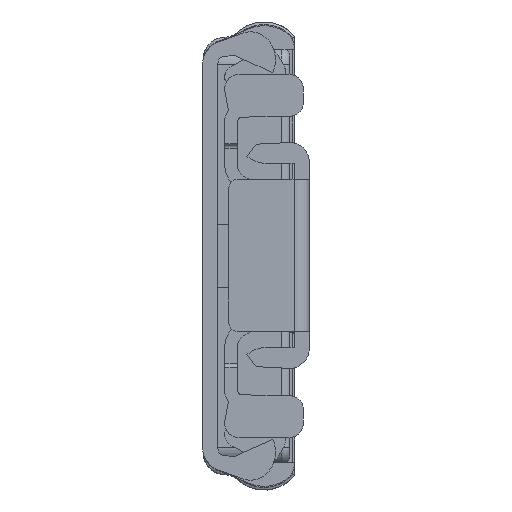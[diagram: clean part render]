
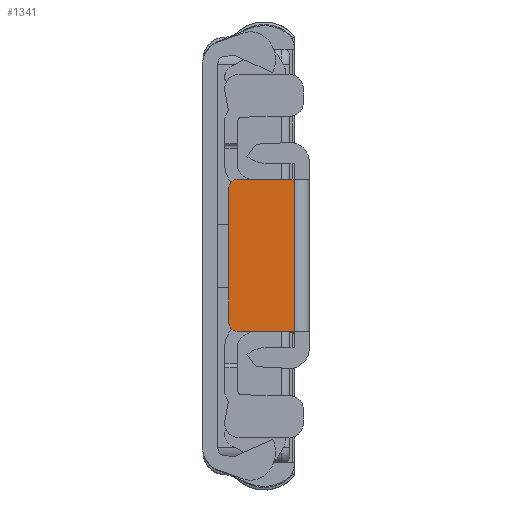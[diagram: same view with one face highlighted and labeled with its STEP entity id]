
A CAD part, front view. The second image highlights one B-rep face of the part: STEP entity #1341.
In plain terms, the highlighted planar face has unit normal (0, -1, 0).
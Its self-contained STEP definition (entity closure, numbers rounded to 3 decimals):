
#1341 = ADVANCED_FACE( '', ( #3011 ), #3012, .T. );
#3011 = FACE_OUTER_BOUND( '', #5078, .T. );
#3012 = PLANE( '', #5079 );
#5078 = EDGE_LOOP( '', ( #8976, #8977, #8978, #8979, #8980, #8981 ) );
#5079 = AXIS2_PLACEMENT_3D( '', #8982, #8983, #8984 );
#8976 = ORIENTED_EDGE( '', *, *, #13588, .T. );
#8977 = ORIENTED_EDGE( '', *, *, #12184, .T. );
#8978 = ORIENTED_EDGE( '', *, *, #13589, .T. );
#8979 = ORIENTED_EDGE( '', *, *, #13590, .T. );
#8980 = ORIENTED_EDGE( '', *, *, #12695, .T. );
#8981 = ORIENTED_EDGE( '', *, *, #12945, .T. );
#8982 = CARTESIAN_POINT( '', ( -9., -375.302, -2.366 ) );
#8983 = DIRECTION( '', ( 0., -1., 0. ) );
#8984 = DIRECTION( '', ( 0., 0., -1. ) );
#12184 = EDGE_CURVE( '', #14635, #14636, #14637, .T. );
#12695 = EDGE_CURVE( '', #15541, #15539, #15542, .T. );
#12945 = EDGE_CURVE( '', #15539, #15940, #15941, .T. );
#13588 = EDGE_CURVE( '', #15940, #14635, #16904, .T. );
#13589 = EDGE_CURVE( '', #14636, #16905, #16906, .T. );
#13590 = EDGE_CURVE( '', #16905, #15541, #16907, .T. );
#14635 = VERTEX_POINT( '', #18189 );
#14636 = VERTEX_POINT( '', #18190 );
#14637 = CIRCLE( '', #18191, 1. );
#15539 = VERTEX_POINT( '', #19462 );
#15541 = VERTEX_POINT( '', #19465 );
#15542 = LINE( '', #19466, #19467 );
#15940 = VERTEX_POINT( '', #20027 );
#15941 = CIRCLE( '', #20028, 1. );
#16904 = LINE( '', #21426, #21427 );
#16905 = VERTEX_POINT( '', #21428 );
#16906 = LINE( '', #21429, #21430 );
#16907 = LINE( '', #21431, #21432 );
#18189 = CARTESIAN_POINT( '', ( -8., -375.302, 5.8 ) );
#18190 = CARTESIAN_POINT( '', ( -9., -375.302, 4.8 ) );
#18191 = AXIS2_PLACEMENT_3D( '', #22834, #22835, #22836 );
#19462 = CARTESIAN_POINT( '', ( 9., -375.302, 4.8 ) );
#19465 = CARTESIAN_POINT( '', ( 9., -375.302, -1.898 ) );
#19466 = CARTESIAN_POINT( '', ( 9., -375.302, -2.366 ) );
#19467 = VECTOR( '', #23541, 1000. );
#20027 = CARTESIAN_POINT( '', ( 8., -375.302, 5.8 ) );
#20028 = AXIS2_PLACEMENT_3D( '', #23843, #23844, #23845 );
#21426 = CARTESIAN_POINT( '', ( 9., -375.302, 5.8 ) );
#21427 = VECTOR( '', #24730, 1000. );
#21428 = CARTESIAN_POINT( '', ( -9., -375.302, -1.898 ) );
#21429 = CARTESIAN_POINT( '', ( -9., -375.302, -2.366 ) );
#21430 = VECTOR( '', #24731, 1000. );
#21431 = CARTESIAN_POINT( '', ( -9., -375.302, -1.898 ) );
#21432 = VECTOR( '', #24732, 1000. );
#22834 = CARTESIAN_POINT( '', ( -8., -375.302, 4.8 ) );
#22835 = DIRECTION( '', ( 0., -1., 0. ) );
#22836 = DIRECTION( '', ( 0., 0., -1. ) );
#23541 = DIRECTION( '', ( 0., 0., 1. ) );
#23843 = CARTESIAN_POINT( '', ( 8., -375.302, 4.8 ) );
#23844 = DIRECTION( '', ( 0., -1., 0. ) );
#23845 = DIRECTION( '', ( 0., 0., -1. ) );
#24730 = DIRECTION( '', ( -1., 0., 0. ) );
#24731 = DIRECTION( '', ( 0., 0., -1. ) );
#24732 = DIRECTION( '', ( 1., 0., 0. ) );
